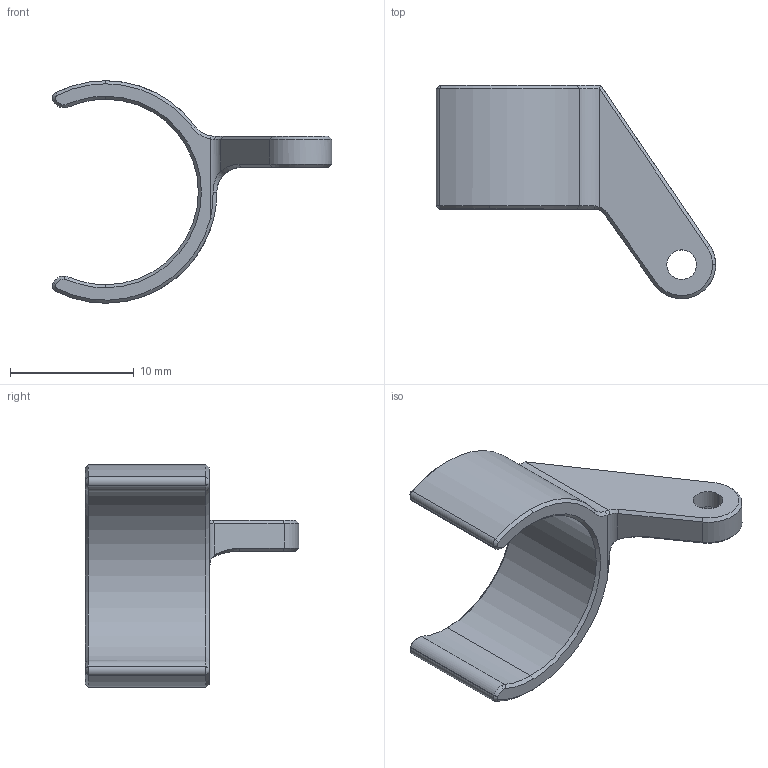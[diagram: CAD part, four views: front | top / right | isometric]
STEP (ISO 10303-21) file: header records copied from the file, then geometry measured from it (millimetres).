
FILE_DESCRIPTION (( 'STEP AP203' ), '1' );
FILE_NAME ('PUMP_ARM_2R.STEP');
FILE_SCHEMA (( 'CONFIG_CONTROL_DESIGN' ));
Length unit declared in the file: millimetre
Products named in the file (1): PUMP_ARM_2R
Bounding box: 22.59 x 17.25 x 18 mm (x, y, z)
Volume: 709.9 mm3; surface area: 1001.7 mm2
Topology: 1 solids, 1 shells, 69 faces, 162 edges, 95 vertices
Faces by surface type: cone 31, cylinder 17, plane 16, bspline 5
Entity records: 2339 total; most frequent: CARTESIAN_POINT 693, DIRECTION 337, ORIENTED_EDGE 324, EDGE_CURVE 162, AXIS2_PLACEMENT_3D 131, VERTEX_POINT 95, LINE 75, VECTOR 75
